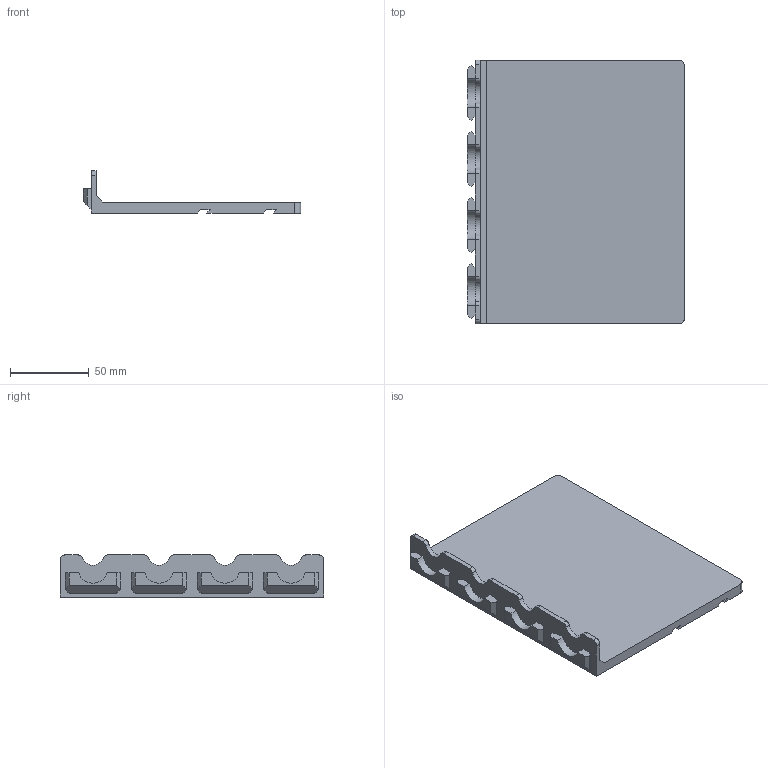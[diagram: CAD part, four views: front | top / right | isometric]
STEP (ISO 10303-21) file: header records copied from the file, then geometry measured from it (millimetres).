
FILE_DESCRIPTION(/* description */ ('','CAx-IF Rec.Pracs.---Representation and Presentation of Product Manufacturing Information (PMI)---4.0---2014-10-13'),/* implementation_level */ '2;1');
FILE_NAME(/* name */ 'Goews 4x HangerFlat Shelf 4x3 Base.step',/* time_stamp */ '2024-11-29T16:33:10-05:00',/* author */ (''),/* organization */ (''),/* preprocessor_version */ 'ST-DEVELOPER v20',/* originating_system */ 'Autodesk Translation Framework v13.20.0.188',/* authorisation */ '');
FILE_SCHEMA (('AP242_MANAGED_MODEL_BASED_3D_ENGINEERING_MIM_LF { 1 0 10303 442 1 1 4 }'));
Length unit declared in the file: millimetre
Products named in the file (1): Goews 4x Hanger Shelf 2x
Bounding box: 138.15 x 167.6 x 26.72 mm (x, y, z)
Volume: 167726.5 mm3; surface area: 58177.8 mm2
Topology: 1 solids, 1 shells, 85 faces, 229 edges, 150 vertices
Faces by surface type: plane 65, cylinder 20
Entity records: 2672 total; most frequent: CARTESIAN_POINT 465, ORIENTED_EDGE 458, DIRECTION 441, EDGE_CURVE 229, LINE 189, VECTOR 189, VERTEX_POINT 150, AXIS2_PLACEMENT_3D 126
